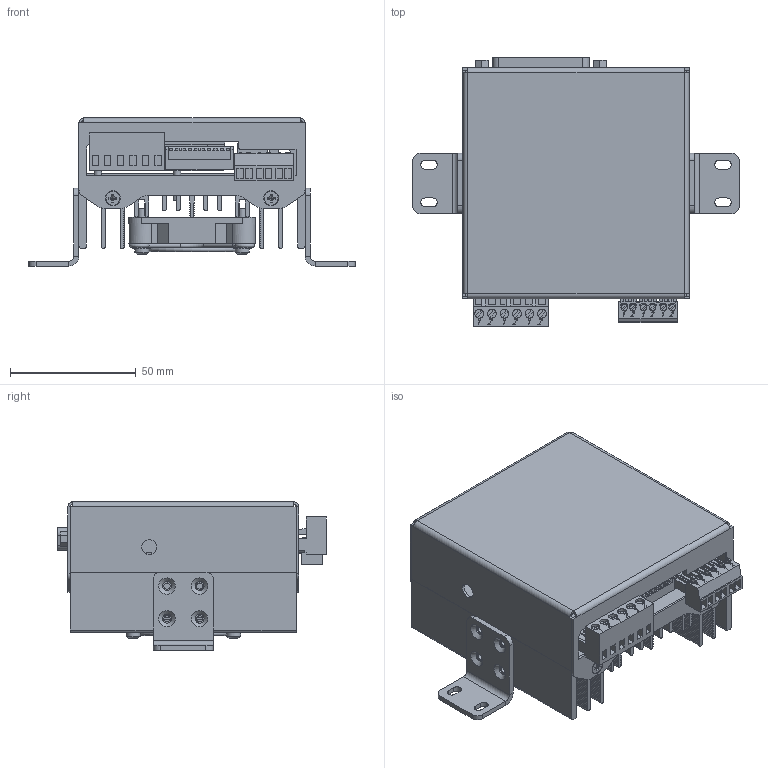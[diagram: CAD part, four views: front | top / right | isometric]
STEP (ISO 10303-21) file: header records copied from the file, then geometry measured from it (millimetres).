
FILE_DESCRIPTION(('STEP AP203'), '1');
FILE_NAME('PLD880i-03.000 捘', '2022-09-23T11:02:28', (''), (''), 'ASCON STEP Converter 1.6', 'ASCON Math Kernel', '');
FILE_SCHEMA(('CONFIG_CONTROL_DESIGN'));
Length unit declared in the file: millimetre
Products named in the file (1): PLD880i-03.000 СБ
Bounding box: 130 x 106.9 x 59 mm (x, y, z)
Volume: 117207 mm3; surface area: 116937.1 mm2
Topology: 15 solids, 15 shells, 2121 faces, 5722 edges, 3762 vertices
Faces by surface type: plane 1273, cylinder 668, bspline 101, torus 41, cone 28, sphere 10
Full cylindrical faces by diameter (mm): 0.8 x25, 1.6 x4, 2 x7, 2.013 x2, 2.459 x12, 2.5 x14, 3 x10, 3.2 x4, 3.4 x4, 3.5 x14, 5 x1, 5.5 x4, 5.6 x10, 6 x5, 7 x4, 12 x1, 16 x2, 22 x1, 48 x1
Entity records: 87987 total; most frequent: CARTESIAN_POINT 17387, ORIENTED_EDGE 11030, DIRECTION 10986, EDGE_CURVE 5515, VERTEX_POINT 3763, LINE 3704, VECTOR 3704, AXIS2_PLACEMENT_3D 3641
